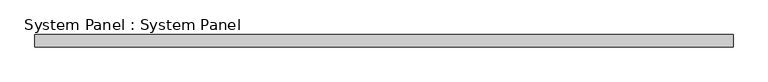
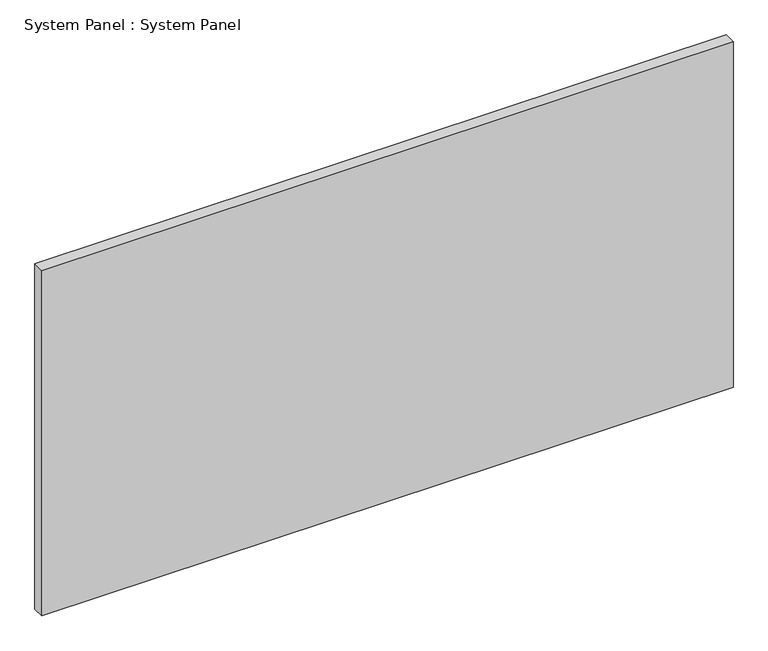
"""IFC4 building model written with IfcOpenShell, lengths in millimetres: plate geometry, System Panel : System Panel."""

from ifc_helpers import new_model, si_unit, origin, origin_with_axes, place, context, project, spatial, polyline, outline, extrude, source, transform, mapped, element, save


def system_panel_system_panel_48f34c06(model_context):
    return source(origin(), model_context, "Body", "SweptSolid", [
        extrude(outline(polyline([(2885.9779031, -50.8), (-2885.9779031, -50.8), (-2885.9779031, 50.8), (2885.9779031, 50.8), (2885.9779031, -50.8)])), origin_with_axes(), (0.0, 0.0, 1.0), 3048.0),
    ])


if __name__ == "__main__":
    model = new_model("IFC4")
    model_context = context("Model", 3, world=origin())
    ifc_project = project(units=[si_unit("LENGTHUNIT", "METRE", prefix="MILLI")], contexts=[model_context])
    site = spatial("IfcSite", under=ifc_project)
    building = spatial("IfcBuilding", under=site)
    placement = place(None, origin())
    system_panel_system_panel_shape = system_panel_system_panel_48f34c06(model_context)
    element("IfcPlate", 1, ObjectType="System Panel : System Panel", at=placement, inside=building, context=model_context, shape_type="MappedRepresentation", body=[
        mapped(system_panel_system_panel_shape, transform((0.0, 0.0, 0.0), x_axis=(1.0, 0.0, 0.0), y_axis=(0.0, 1.0, 0.0), z_axis=(0.0, 0.0, 1.0))),
    ])
    save(model, "model.ifc")
